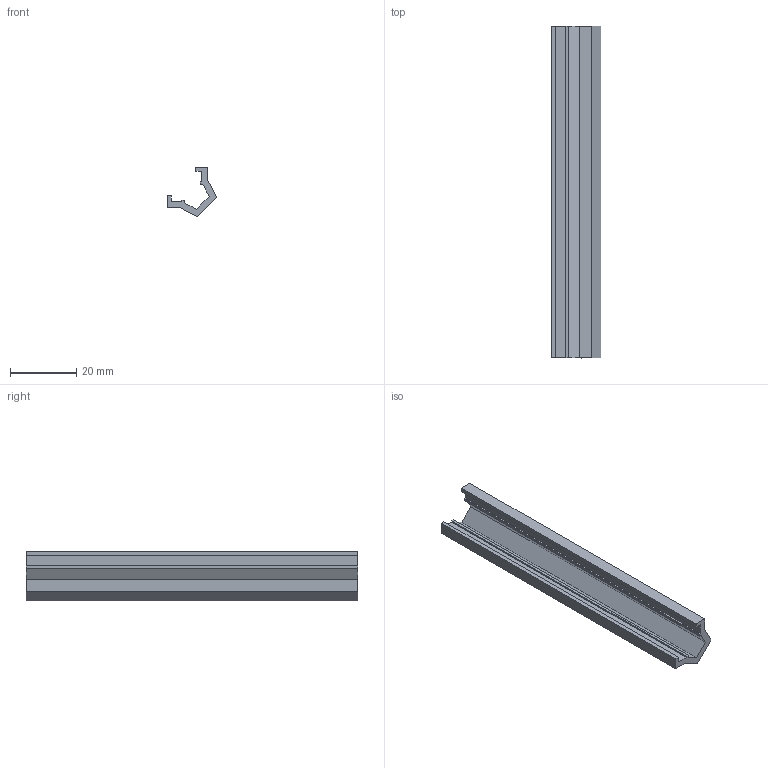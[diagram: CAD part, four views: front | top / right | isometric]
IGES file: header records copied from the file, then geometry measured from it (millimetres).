
Start section: Data from Parasolid IGES Translator 20.0.26, Copyright(c) 2006 Siemens P LM Software. All Rights Reserved.
Global section: file name: 9303925.igs; native system: By Siemens PLM Incorporated; preprocessor: XPlus GENERIC/IGES 20.0.26; author: Noname; organization: Noname; date: 20210825.160229; units: millimetre
Bounding box: 15.04 x 100 x 15.04 mm (x, y, z)
Surface area: 6666 mm2 (no closed solid volume)
Topology: 0 solids, 0 shells, 24 faces, 132 edges, 132 vertices
Faces by surface type: extrusion 24
